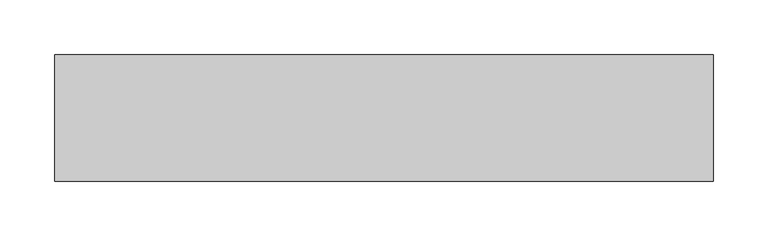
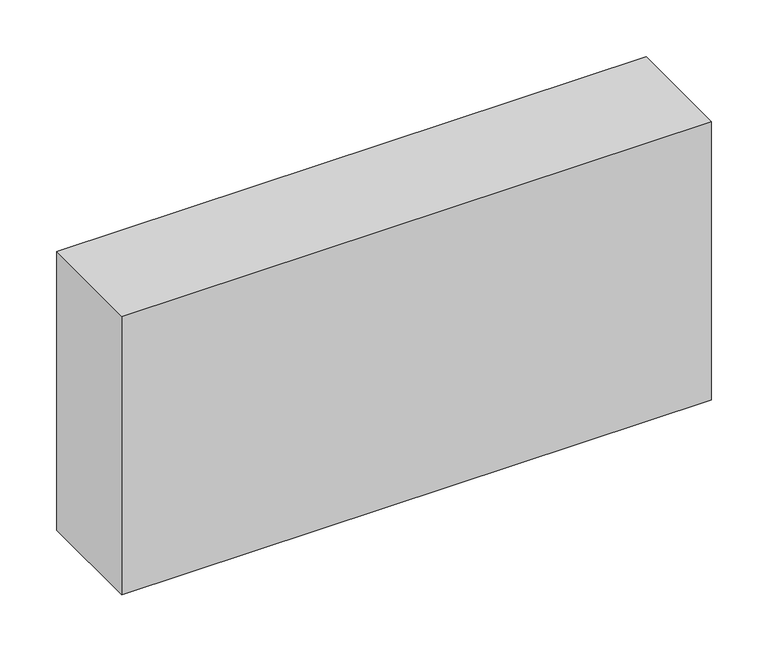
"""IFC4 building model written with IfcOpenShell, lengths in millimetres: proxy geometry, Módulo de Vedação de Concreto Celular - Celucon : MVCC 11,5x30x60cm (L x A x C)."""

from ifc_helpers import new_model, si_unit, origin, origin_with_axes, place, context, project, spatial, polyline, outline, extrude, source, transform, mapped, element, save


def generic_models_a790b70a(model_context):
    return source(origin(), model_context, "Body", "SweptSolid", [
        extrude(outline(polyline([(300.0, 57.5), (300.0, -57.5), (-300.0, -57.5), (-300.0, 57.5), (300.0, 57.5)])), origin_with_axes(), (0.0, 0.0, 1.0), 300.0),
    ])


if __name__ == "__main__":
    model = new_model("IFC4")
    model_context = context("Model", 3, world=origin())
    ifc_project = project(units=[si_unit("LENGTHUNIT", "METRE", prefix="MILLI")], contexts=[model_context])
    site = spatial("IfcSite", under=ifc_project)
    building = spatial("IfcBuilding", under=site)
    placement = place(None, origin())
    generic_models_shape = generic_models_a790b70a(model_context)
    element("IfcBuildingElementProxy", 1, Name="Módulo de Vedação de Concreto Celular - Celucon : MVCC 11,5x30x60cm (L x A x C)", ObjectType="Módulo de Vedação de Concreto Celular - Celucon : MVCC 11,5x30x60cm (L x A x C)", at=placement, inside=building, context=model_context, shape_type="MappedRepresentation", body=[
        mapped(generic_models_shape, transform((0.0, 0.0, 0.0), x_axis=(1.0, 0.0, 0.0), y_axis=(0.0, 1.0, 0.0), z_axis=(0.0, 0.0, 1.0))),
    ])
    save(model, "model.ifc")
